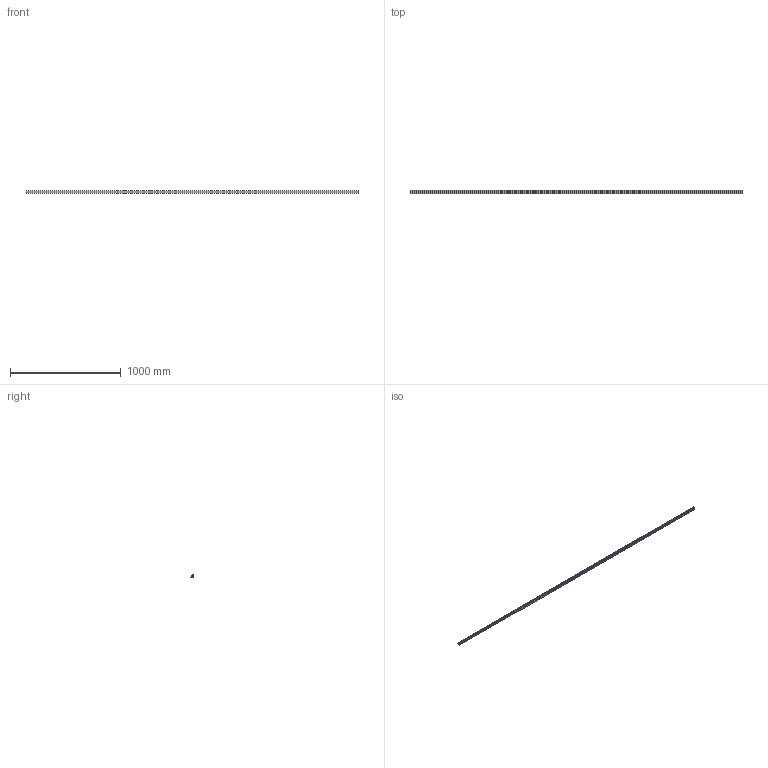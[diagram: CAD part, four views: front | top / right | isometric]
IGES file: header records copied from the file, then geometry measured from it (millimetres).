
Start section: Data from Parasolid IGES Translator 20.0.26, Copyright(c) 2006 Siemens P LM Software. All Rights Reserved.
Global section: file name: 9298800.igs; native system: By Siemens PLM Incorporated; preprocessor: XPlus GENERIC/IGES 20.0.26; author: Noname; organization: Noname; date: 20210826.181929; units: millimetre
Bounding box: 3000 x 30.5 x 25 mm (x, y, z)
Surface area: 613721.6 mm2 (no closed solid volume)
Topology: 0 solids, 0 shells, 54 faces, 312 edges, 312 vertices
Faces by surface type: extrusion 54
